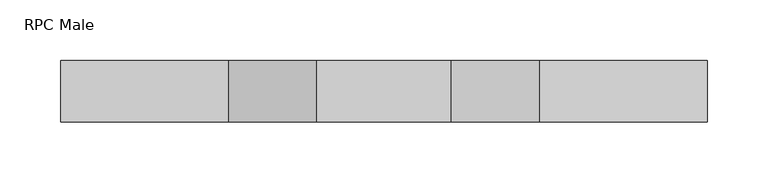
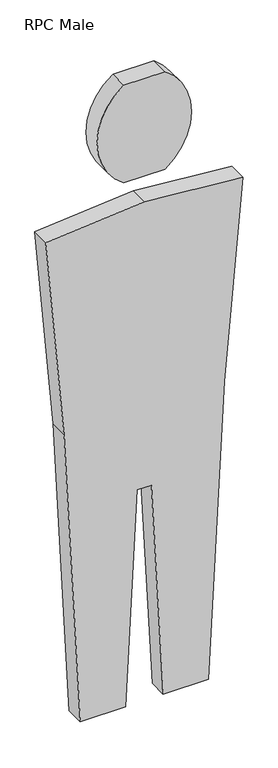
"""IFC4 building model written with IfcOpenShell, lengths in millimetres: proxy geometry, RPC Male : LaRon."""

from ifc_helpers import new_model, si_unit, point, frame, frame_2d, origin, place, context, project, spatial, polyline, circle_curve, trimmed, segment, composite_curve, outline, extrude, source, transform, mapped, element, save


def rpc_male_426f1bce(model_context):
    return source(origin(), model_context, "Body", "SweptSolid", [
        extrude(outline(polyline([(0.0, 173.6516726), (835.9862441, 217.4638551), (1402.1537691, 266.9970952), (1425.5129881, 0.0), (1402.1537691, -266.9970952), (835.9862441, -217.4638551), (0.0, -173.6516726), (0.0, -51.1108772), (608.5557055, -19.2178241), (608.5557055, 19.2178241), (0.0, 51.1108772), (0.0, 173.6516726)])), frame((0.0, -25.4, 0.0), z_axis=(0.0, 1.0, 0.0), x_axis=(0.0, 0.0, 1.0)), (0.0, 0.0, 1.0), 50.7885654),
        extrude(outline(composite_curve([segment(trimmed(circle_curve(frame_2d((1638.3, -42.7250777)), 170.9002356), [point((1498.6, 55.7167859))], [point((1778.0, 55.7167859))], False, "CARTESIAN"), True, "CONTINUOUS"), segment(polyline([(1778.0, 55.7167859), (1778.0, -55.7167859)]), True, "CONTINUOUS"), segment(trimmed(circle_curve(frame_2d((1638.3, 42.7250777)), 170.9002356), [point((1778.0, -55.7167859))], [point((1498.6, -55.7167859))], False, "CARTESIAN"), True, "CONTINUOUS"), segment(polyline([(1498.6, -55.7167859), (1498.6, 55.7167859)]), True, "CONTINUOUS")], self_intersect=False)), frame((0.0, -25.4, 0.0), z_axis=(0.0, 1.0, 0.0), x_axis=(0.0, 0.0, 1.0)), (0.0, 0.0, 1.0), 50.7885654),
    ])


if __name__ == "__main__":
    model = new_model("IFC4")
    model_context = context("Model", 3, world=origin())
    ifc_project = project(units=[si_unit("LENGTHUNIT", "METRE", prefix="MILLI")], contexts=[model_context])
    site = spatial("IfcSite", under=ifc_project)
    building = spatial("IfcBuilding", under=site)
    placement = place(None, origin())
    rpc_male_shape = rpc_male_426f1bce(model_context)
    element("IfcBuildingElementProxy", 1, Name="RPC Male : LaRon", ObjectType="RPC Male : LaRon", at=placement, inside=building, context=model_context, shape_type="MappedRepresentation", body=[
        mapped(rpc_male_shape, transform((0.0, 0.0, 0.0), x_axis=(1.0, 0.0, 0.0), y_axis=(0.0, 1.0, 0.0), z_axis=(0.0, 0.0, 1.0))),
    ])
    save(model, "model.ifc")
